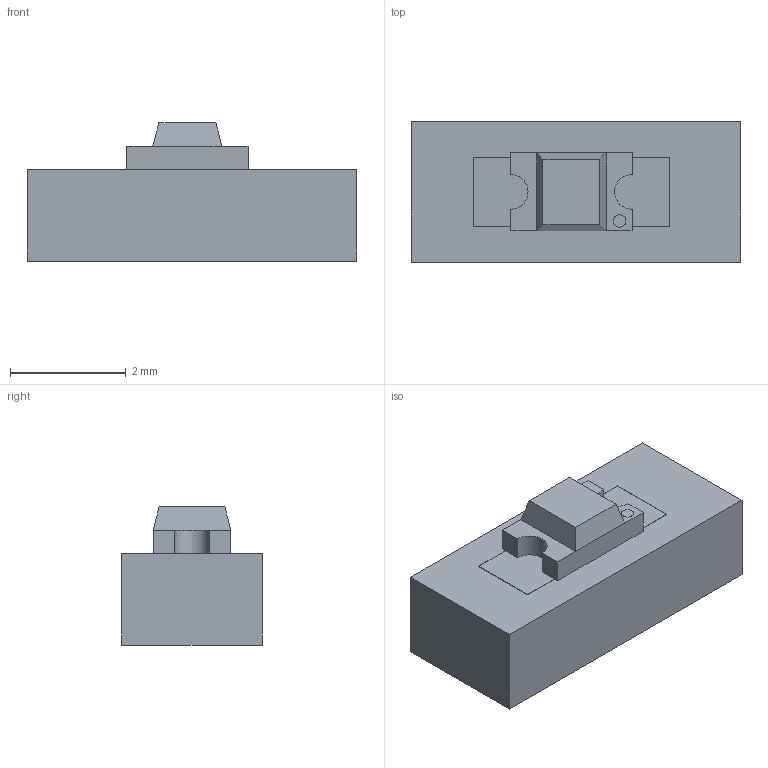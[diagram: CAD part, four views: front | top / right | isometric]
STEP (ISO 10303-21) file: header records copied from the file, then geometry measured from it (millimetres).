
FILE_DESCRIPTION(('FreeCAD Model'),'2;1');
FILE_NAME('C:/Users/cr185092/Documents/KiCAD_Projects/VORON_V2.0_Expander_option2/VORON_V2.0.pretty/3D_Models\Fusion003.step', '2017-09-16T14:36:42',('kicad StepUp'),('ksu MCAD'), 'Open CASCADE STEP processor 6.8','FreeCAD','Unknown');
FILE_SCHEMA(('AUTOMOTIVE_DESIGN_CC2 { 1 2 10303 214 -1 1 5 4 }'));
Length unit declared in the file: millimetre
Products named in the file (1): Fusion003
Bounding box: 5.7 x 2.43 x 2.39 mm (x, y, z)
Volume: 23.5 mm3; surface area: 61 mm2
Topology: 1 solids, 1 shells, 37 faces, 96 edges, 62 vertices
Faces by surface type: plane 35, cylinder 2
Entity records: 1389 total; most frequent: CARTESIAN_POINT 196, ORIENTED_EDGE 192, DIRECTION 178, EDGE_CURVE 96, LINE 90, VECTOR 90, VERTEX_POINT 62, AXIS2_PLACEMENT_3D 44
